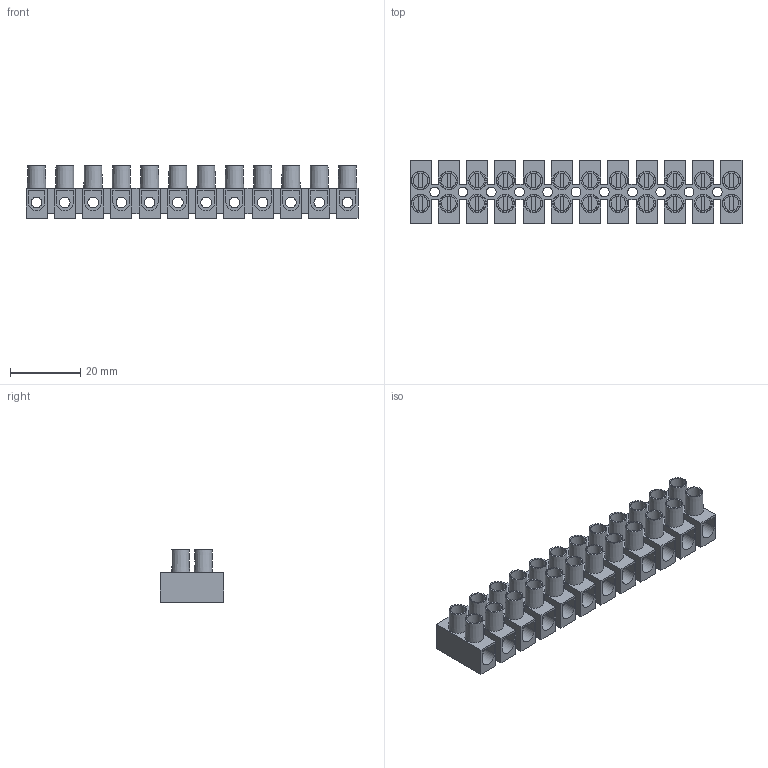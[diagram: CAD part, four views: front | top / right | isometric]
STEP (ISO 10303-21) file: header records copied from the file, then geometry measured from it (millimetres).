
FILE_DESCRIPTION(/* description */ ('Unknown'),/* implementation_level */ '2;1');
FILE_NAME(/* name */ 'MT 1104 PH',/* time_stamp */ '2021-10-08T10:11:14+02:00',/* author */ ('Unknown'),/* organization */ ('Unknown'),/* preprocessor_version */ 'ST-DEVELOPER v16.7',/* originating_system */ 'Solid Edge',/* authorisation */ 'Unknown');
FILE_SCHEMA (('AUTOMOTIVE_DESIGN {1 0 10303 214 3 1 1}'));
Length unit declared in the file: millimetre
Products named in the file (1): MT 1104 PH
Bounding box: 94.55 x 18 x 15 mm (x, y, z)
Volume: 9671.8 mm3; surface area: 14562.2 mm2
Topology: 1 solids, 1 shells, 522 faces, 1353 edges, 906 vertices
Faces by surface type: plane 427, cylinder 71, cone 24
Full cylindrical faces by diameter (mm): 2.8 x11, 3 x12, 4.2 x24
Entity records: 15252 total; most frequent: CARTESIAN_POINT 2617, DIRECTION 2576, ORIENTED_EDGE 2470, EDGE_CURVE 1235, LINE 940, VECTOR 940, VERTEX_POINT 859, AXIS2_PLACEMENT_3D 818
